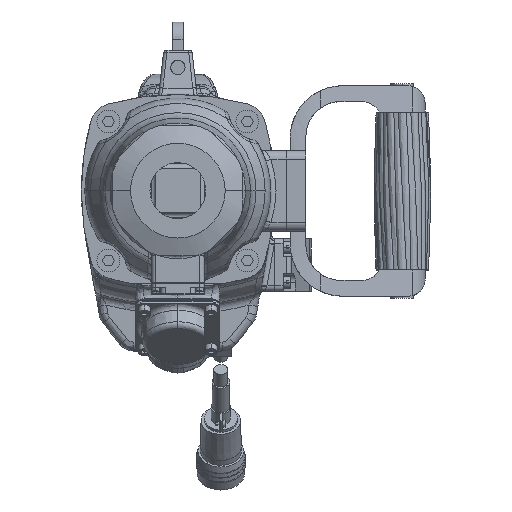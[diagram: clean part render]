
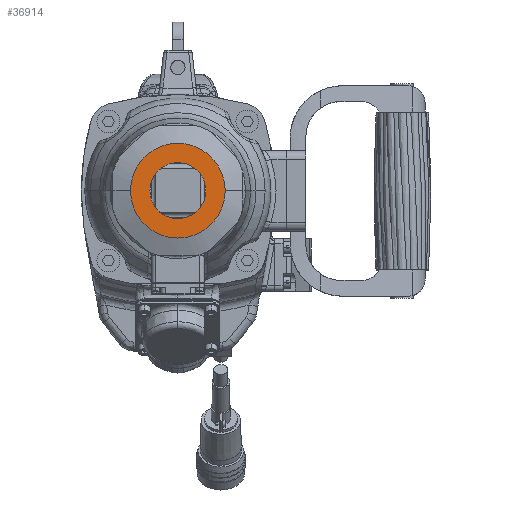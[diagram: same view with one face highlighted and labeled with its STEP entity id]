
A CAD part, top view. The second image highlights one B-rep face of the part: STEP entity #36914.
In plain terms, the highlighted planar face has unit normal (0, 0, 1).
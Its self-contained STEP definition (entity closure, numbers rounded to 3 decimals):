
#36313 = VERTEX_POINT ( 'NONE', #98517 ) ;
#36315 = EDGE_CURVE ( 'NONE', #36313, #36316, #98516, .T. ) ;
#36316 = VERTEX_POINT ( 'NONE', #98511 ) ;
#36580 = EDGE_CURVE ( 'NONE', #36581, #36582, #99047, .T. ) ;
#36581 = VERTEX_POINT ( 'NONE', #99043 ) ;
#36582 = VERTEX_POINT ( 'NONE', #99042 ) ;
#36914 = ADVANCED_FACE ( 'NONE', ( #99845, #99844 ), #99843, .T. ) ;
#36915 = EDGE_LOOP ( 'NONE', ( #36916, #36918 ) ) ;
#36916 = ORIENTED_EDGE ( 'NONE', *, *, #36917, .T. ) ;
#36917 = EDGE_CURVE ( 'NONE', #36582, #36581, #99838, .T. ) ;
#36918 = ORIENTED_EDGE ( 'NONE', *, *, #36580, .T. ) ;
#36919 = EDGE_LOOP ( 'NONE', ( #36920, #36922 ) ) ;
#36920 = ORIENTED_EDGE ( 'NONE', *, *, #36921, .F. ) ;
#36921 = EDGE_CURVE ( 'NONE', #36316, #36313, #99833, .T. ) ;
#36922 = ORIENTED_EDGE ( 'NONE', *, *, #36315, .F. ) ;
#98511 = CARTESIAN_POINT ( 'NONE',  ( 15.9, 0., 0. ) ) ;
#98512 = DIRECTION ( 'NONE',  ( 1., 0., 0. ) ) ;
#98513 = DIRECTION ( 'NONE',  ( 0., 0., 1. ) ) ;
#98514 = CARTESIAN_POINT ( 'NONE',  ( 0., 0., 0. ) ) ;
#98515 = AXIS2_PLACEMENT_3D ( 'NONE', #98514, #98513, #98512 ) ;
#98516 = CIRCLE ( 'NONE', #98515, 15.9 ) ;
#98517 = CARTESIAN_POINT ( 'NONE',  ( -15.9, 0., 0. ) ) ;
#99042 = CARTESIAN_POINT ( 'NONE',  ( -27., 0., 0. ) ) ;
#99043 = CARTESIAN_POINT ( 'NONE',  ( 27., 0., 0. ) ) ;
#99044 = DIRECTION ( 'NONE',  ( 1., 0., 0. ) ) ;
#99045 = DIRECTION ( 'NONE',  ( 0., 0., 1. ) ) ;
#99046 = AXIS2_PLACEMENT_3D ( 'NONE', #99052, #99045, #99044 ) ;
#99047 = CIRCLE ( 'NONE', #99046, 27. ) ;
#99052 = CARTESIAN_POINT ( 'NONE',  ( 0., 0., 0. ) ) ;
#99829 = DIRECTION ( 'NONE',  ( 1., 0., 0. ) ) ;
#99830 = DIRECTION ( 'NONE',  ( 0., 0., 1. ) ) ;
#99831 = CARTESIAN_POINT ( 'NONE',  ( 0., 0., 0. ) ) ;
#99832 = AXIS2_PLACEMENT_3D ( 'NONE', #99831, #99830, #99829 ) ;
#99833 = CIRCLE ( 'NONE', #99832, 15.9 ) ;
#99834 = DIRECTION ( 'NONE',  ( 1., 0., 0. ) ) ;
#99835 = DIRECTION ( 'NONE',  ( 0., 0., 1. ) ) ;
#99836 = CARTESIAN_POINT ( 'NONE',  ( 0., 0., 0. ) ) ;
#99837 = AXIS2_PLACEMENT_3D ( 'NONE', #99836, #99835, #99834 ) ;
#99838 = CIRCLE ( 'NONE', #99837, 27. ) ;
#99839 = DIRECTION ( 'NONE',  ( 1., 0., 0. ) ) ;
#99840 = DIRECTION ( 'NONE',  ( 0., 0., 1. ) ) ;
#99841 = CARTESIAN_POINT ( 'NONE',  ( 0., 0., 0. ) ) ;
#99842 = AXIS2_PLACEMENT_3D ( 'NONE', #99841, #99840, #99839 ) ;
#99843 = PLANE ( 'NONE',  #99842 ) ;
#99844 = FACE_BOUND ( 'NONE', #36919, .T. ) ;
#99845 = FACE_OUTER_BOUND ( 'NONE', #36915, .T. ) ;
